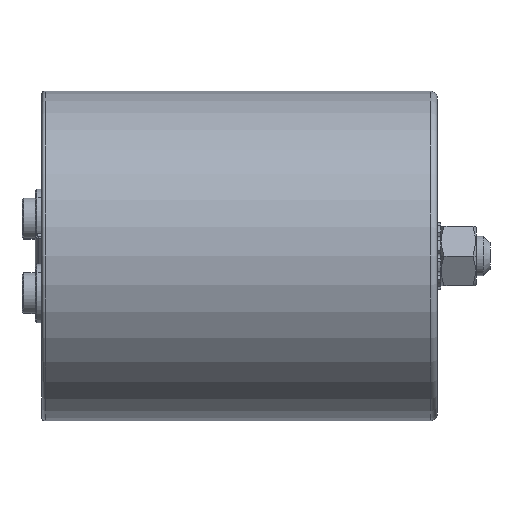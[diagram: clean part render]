
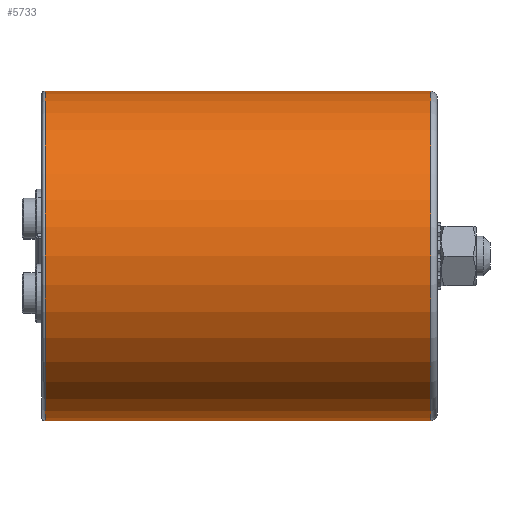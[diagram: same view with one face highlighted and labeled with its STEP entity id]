
A CAD part, left-side view. The second image highlights one B-rep face of the part: STEP entity #5733.
In plain terms, the highlighted cylindrical face has radius 50 mm (diameter 100 mm), a partial arc.
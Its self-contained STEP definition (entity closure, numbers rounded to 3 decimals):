
#7 = AXIS2_PLACEMENT_3D ( 'NONE', #1438, #4019, #7128 ) ;
#244 = LINE ( 'NONE', #3833, #5820 ) ;
#289 = VERTEX_POINT ( 'NONE', #6370 ) ;
#892 = VERTEX_POINT ( 'NONE', #7787 ) ;
#1089 = FACE_OUTER_BOUND ( 'NONE', #3282, .T. ) ;
#1196 = CARTESIAN_POINT ( 'NONE',  ( 0., -10., -50. ) ) ;
#1438 = CARTESIAN_POINT ( 'NONE',  ( 0., -118., 0. ) ) ;
#2374 = CARTESIAN_POINT ( 'NONE',  ( 0., -1., 50. ) ) ;
#2524 = DIRECTION ( 'NONE',  ( 0., 0., 1. ) ) ;
#2537 = ORIENTED_EDGE ( 'NONE', *, *, #5235, .T. ) ;
#2592 = DIRECTION ( 'NONE',  ( 0., 1., 0. ) ) ;
#2615 = ORIENTED_EDGE ( 'NONE', *, *, #2854, .T. ) ;
#2854 = EDGE_CURVE ( 'NONE', #289, #892, #6630, .T. ) ;
#2953 = CIRCLE ( 'NONE', #6340, 50. ) ;
#3069 = DIRECTION ( 'NONE',  ( 0., 1., 0. ) ) ;
#3282 = EDGE_LOOP ( 'NONE', ( #2615, #2537, #7341, #4602 ) ) ;
#3351 = DIRECTION ( 'NONE',  ( 0., -1., 0. ) ) ;
#3436 = EDGE_CURVE ( 'NONE', #4751, #6751, #2953, .T. ) ;
#3833 = CARTESIAN_POINT ( 'NONE',  ( 0., -10., 50. ) ) ;
#4019 = DIRECTION ( 'NONE',  ( 0., 1., 0. ) ) ;
#4090 = AXIS2_PLACEMENT_3D ( 'NONE', #6012, #7358, #4803 ) ;
#4428 = VECTOR ( 'NONE', #3069, 1000. ) ;
#4602 = ORIENTED_EDGE ( 'NONE', *, *, #6786, .F. ) ;
#4751 = VERTEX_POINT ( 'NONE', #2374 ) ;
#4803 = DIRECTION ( 'NONE',  ( 0., 0., -1. ) ) ;
#5235 = EDGE_CURVE ( 'NONE', #892, #4751, #244, .T. ) ;
#5733 = ADVANCED_FACE ( 'NONE', ( #1089 ), #7376, .T. ) ;
#5820 = VECTOR ( 'NONE', #2592, 1000. ) ;
#6012 = CARTESIAN_POINT ( 'NONE',  ( 0., -10., 0. ) ) ;
#6340 = AXIS2_PLACEMENT_3D ( 'NONE', #7969, #3351, #2524 ) ;
#6370 = CARTESIAN_POINT ( 'NONE',  ( 0., -118., -50. ) ) ;
#6502 = LINE ( 'NONE', #1196, #4428 ) ;
#6630 = CIRCLE ( 'NONE', #7, 50. ) ;
#6751 = VERTEX_POINT ( 'NONE', #8141 ) ;
#6786 = EDGE_CURVE ( 'NONE', #289, #6751, #6502, .T. ) ;
#7128 = DIRECTION ( 'NONE',  ( 0., 0., -1. ) ) ;
#7341 = ORIENTED_EDGE ( 'NONE', *, *, #3436, .T. ) ;
#7358 = DIRECTION ( 'NONE',  ( 0., 1., 0. ) ) ;
#7376 = CYLINDRICAL_SURFACE ( 'NONE', #4090, 50. ) ;
#7787 = CARTESIAN_POINT ( 'NONE',  ( 0., -118., 50. ) ) ;
#7969 = CARTESIAN_POINT ( 'NONE',  ( 0., -1., 0. ) ) ;
#8141 = CARTESIAN_POINT ( 'NONE',  ( 0., -1., -50. ) ) ;
